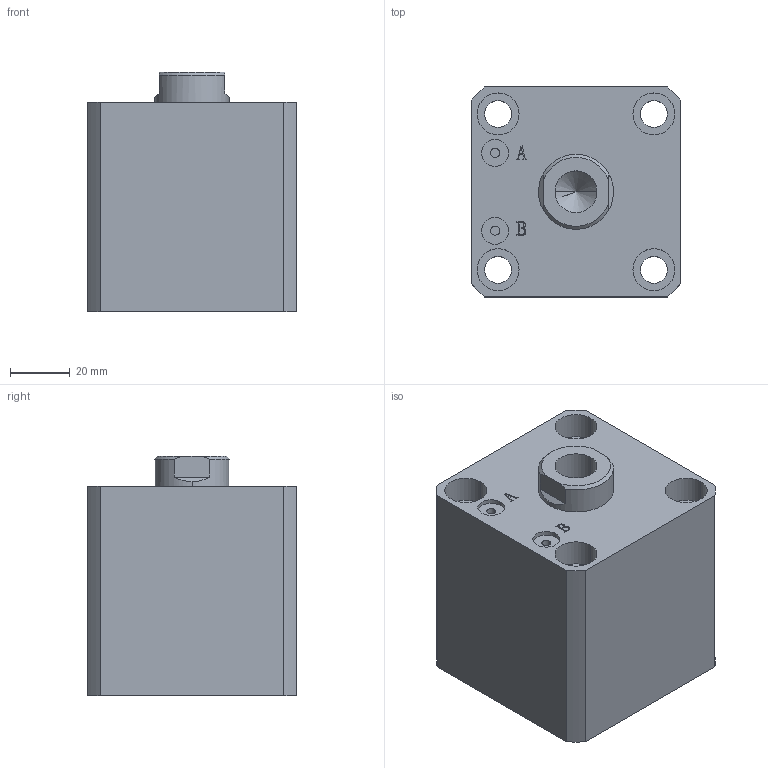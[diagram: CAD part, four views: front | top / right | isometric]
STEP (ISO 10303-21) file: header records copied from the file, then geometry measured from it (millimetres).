
FILE_DESCRIPTION (( 'STEP AP203' ), '1' );
FILE_NAME ('HTB-SDMA40-15N.STEP', '2019-10-07T11:50:36', ( '微软用户' ), ( '微软中国' ), 'SwSTEP 2.0', 'SolidWorks 2012', '' );
FILE_SCHEMA (( 'CONFIG_CONTROL_DESIGN' ));
Length unit declared in the file: millimetre
Products named in the file (3): HTB-SDMA40-15N; HTB-SDMA40-15N活塞杆; HTB-SDMA40-15掛极
Assembly tree (2 placements, depth 2):
  HTB-SDMA40-15N
    HTB-SDMA40-15掛极
    HTB-SDMA40-15N活塞杆
Bounding box: 70 x 70 x 80 mm (x, y, z)
Volume: 305108.4 mm3; surface area: 55174.5 mm2
Topology: 2 solids, 2 shells, 137 faces, 331 edges, 217 vertices
Faces by surface type: plane 65, cylinder 46, bspline 16, torus 6, cone 4
Entity records: 5074 total; most frequent: CARTESIAN_POINT 1580, ORIENTED_EDGE 658, DIRECTION 647, EDGE_CURVE 329, AXIS2_PLACEMENT_3D 232, VERTEX_POINT 217, VECTOR 183, LINE 183
